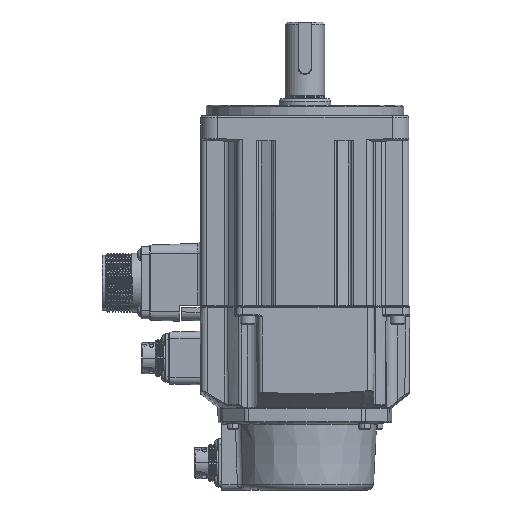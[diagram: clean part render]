
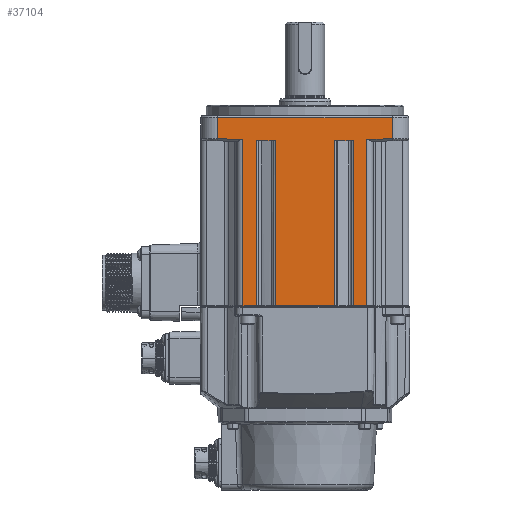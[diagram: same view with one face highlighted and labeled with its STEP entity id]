
A CAD part, left-side view. The second image highlights one B-rep face of the part: STEP entity #37104.
In plain terms, the highlighted planar face has unit normal (-1, 0, 0).
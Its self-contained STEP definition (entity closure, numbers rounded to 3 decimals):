
#9712=DIRECTION('',(0.,-1.,0.));
#9713=VECTOR('',#9712,28.4);
#9714=CARTESIAN_POINT('',(-50.,14.2,-30.1));
#9715=LINE('',#9714,#9713);
#9745=DIRECTION('',(0.,-1.,0.));
#9746=VECTOR('',#9745,6.452);
#9747=CARTESIAN_POINT('',(-50.,-23.3,-30.1));
#9748=LINE('',#9747,#9746);
#10033=DIRECTION('',(0.,-1.,0.));
#10034=VECTOR('',#10033,6.452);
#10035=CARTESIAN_POINT('',(-50.,29.752,-30.1));
#10036=LINE('',#10035,#10034);
#10341=DIRECTION('',(0.,0.,1.));
#10342=VECTOR('',#10341,79.4);
#10343=CARTESIAN_POINT('',(-50.,23.3,-30.1));
#10344=LINE('',#10343,#10342);
#10392=DIRECTION('',(0.,1.,0.017));
#10393=VECTOR('',#10392,12.25);
#10394=CARTESIAN_POINT('',(-50.,29.752,49.947));
#10395=LINE('',#10394,#10393);
#10396=DIRECTION('',(0.,0.,1.));
#10397=VECTOR('',#10396,10.139);
#10398=CARTESIAN_POINT('',(-50.,42.,
50.161));
#10399=LINE('',#10398,#10397);
#10400=DIRECTION('',(0.,1.,-0.017));
#10401=VECTOR('',#10400,12.25);
#10402=CARTESIAN_POINT('',(-50.,-42.,
50.161));
#10403=LINE('',#10402,#10401);
#10404=DIRECTION('',(0.,1.,0.));
#10405=VECTOR('',#10404,9.1);
#10406=CARTESIAN_POINT('',(-50.,-23.3,49.3));
#10407=LINE('',#10406,#10405);
#10408=DIRECTION('',(0.,1.,0.));
#10409=VECTOR('',#10408,9.1);
#10410=CARTESIAN_POINT('',(-50.,14.2,49.3));
#10411=LINE('',#10410,#10409);
#11129=DIRECTION('',(0.,0.,1.));
#11130=VECTOR('',#11129,10.139);
#11131=CARTESIAN_POINT('',(-50.,-42.,
50.161));
#11132=LINE('',#11131,#11130);
#11277=DIRECTION('',(0.,1.,0.));
#11278=VECTOR('',#11277,84.);
#11279=CARTESIAN_POINT('',(-50.,-42.,
60.3));
#11280=LINE('',#11279,#11278);
#13400=DIRECTION('',(0.,0.,1.));
#13401=VECTOR('',#13400,80.047);
#13402=CARTESIAN_POINT('',(-50.,-29.752,-30.1));
#13403=LINE('',#13402,#13401);
#13464=DIRECTION('',(0.,0.,-1.));
#13465=VECTOR('',#13464,80.047);
#13466=CARTESIAN_POINT('',(-50.,29.752,49.947));
#13467=LINE('',#13466,#13465);
#17057=DIRECTION('',(0.,0.,-1.));
#17058=VECTOR('',#17057,79.4);
#17059=CARTESIAN_POINT('',(-50.,-23.3,49.3));
#17060=LINE('',#17059,#17058);
#17120=DIRECTION('',(0.,0.,1.));
#17121=VECTOR('',#17120,79.4);
#17122=CARTESIAN_POINT('',(-50.,-14.2,-30.1));
#17123=LINE('',#17122,#17121);
#17140=DIRECTION('',(0.,0.,-1.));
#17141=VECTOR('',#17140,79.4);
#17142=CARTESIAN_POINT('',(-50.,14.2,49.3));
#17143=LINE('',#17142,#17141);
#18136=CARTESIAN_POINT('',(-50.,42.,
60.3));
#18137=VERTEX_POINT('',#18136);
#18140=CARTESIAN_POINT('',(-50.,-42.,
60.3));
#18141=VERTEX_POINT('',#18140);
#18250=CARTESIAN_POINT('',(-50.,23.3,
-30.1));
#18252=VERTEX_POINT('',#18250);
#18264=CARTESIAN_POINT('',(-50.,14.2,
-30.1));
#18265=VERTEX_POINT('',#18264);
#18266=CARTESIAN_POINT('',(-50.,-14.2,-30.1));
#18267=VERTEX_POINT('',#18266);
#18280=CARTESIAN_POINT('',(-50.,-23.3,
-30.1));
#18281=VERTEX_POINT('',#18280);
#18282=CARTESIAN_POINT('',(-50.,-29.752,-30.1));
#18283=VERTEX_POINT('',#18282);
#18380=CARTESIAN_POINT('',(-50.,29.752,
-30.1));
#18381=VERTEX_POINT('',#18380);
#18576=CARTESIAN_POINT('',(-50.,23.3,49.3));
#18577=VERTEX_POINT('',#18576);
#18580=CARTESIAN_POINT('',(-50.,14.2,49.3));
#18581=VERTEX_POINT('',#18580);
#18587=CARTESIAN_POINT('',(-50.,29.752,49.947));
#18588=CARTESIAN_POINT('',(-50.,42.,
50.161));
#18589=VERTEX_POINT('',#18587);
#18590=VERTEX_POINT('',#18588);
#18591=CARTESIAN_POINT('',(-50.,-42.,
50.161));
#18592=VERTEX_POINT('',#18591);
#18593=CARTESIAN_POINT('',(-50.,-29.752,49.947));
#18594=VERTEX_POINT('',#18593);
#18595=CARTESIAN_POINT('',(-50.,-23.3,49.3));
#18596=VERTEX_POINT('',#18595);
#18597=CARTESIAN_POINT('',(-50.,-14.2,49.3));
#18598=VERTEX_POINT('',#18597);
#37070=CARTESIAN_POINT('',(-50.,42.,61.3));
#37071=DIRECTION('',(-1.,0.,0.));
#37072=DIRECTION('',(0.,-1.,0.));
#37073=AXIS2_PLACEMENT_3D('',#37070,#37071,#37072);
#37074=PLANE('',#37073);
#37076=ORIENTED_EDGE('',*,*,#37075,.T.);
#37078=ORIENTED_EDGE('',*,*,#37077,.T.);
#37080=ORIENTED_EDGE('',*,*,#37079,.F.);
#37082=ORIENTED_EDGE('',*,*,#37081,.F.);
#37084=ORIENTED_EDGE('',*,*,#37083,.T.);
#37086=ORIENTED_EDGE('',*,*,#37085,.F.);
#37087=ORIENTED_EDGE('',*,*,#36693,.F.);
#37089=ORIENTED_EDGE('',*,*,#37088,.F.);
#37091=ORIENTED_EDGE('',*,*,#37090,.T.);
#37093=ORIENTED_EDGE('',*,*,#37092,.F.);
#37094=ORIENTED_EDGE('',*,*,#36677,.F.);
#37096=ORIENTED_EDGE('',*,*,#37095,.F.);
#37097=ORIENTED_EDGE('',*,*,#37053,.T.);
#37098=ORIENTED_EDGE('',*,*,#37027,.F.);
#37099=ORIENTED_EDGE('',*,*,#36821,.F.);
#37101=ORIENTED_EDGE('',*,*,#37100,.F.);
#37102=EDGE_LOOP('',(#37076,#37078,#37080,#37082,#37084,#37086,#37087,#37089,
#37091,#37093,#37094,#37096,#37097,#37098,#37099,#37101));
#37103=FACE_OUTER_BOUND('',#37102,.F.);
#36677=EDGE_CURVE('',#18265,#18267,#9715,.T.);
#36693=EDGE_CURVE('',#18281,#18283,#9748,.T.);
#36821=EDGE_CURVE('',#18381,#18252,#10036,.T.);
#37027=EDGE_CURVE('',#18252,#18577,#10344,.T.);
#37053=EDGE_CURVE('',#18581,#18577,#10411,.T.);
#37075=EDGE_CURVE('',#18589,#18590,#10395,.T.);
#37077=EDGE_CURVE('',#18590,#18137,#10399,.T.);
#37079=EDGE_CURVE('',#18141,#18137,#11280,.T.);
#37081=EDGE_CURVE('',#18592,#18141,#11132,.T.);
#37083=EDGE_CURVE('',#18592,#18594,#10403,.T.);
#37085=EDGE_CURVE('',#18283,#18594,#13403,.T.);
#37088=EDGE_CURVE('',#18596,#18281,#17060,.T.);
#37090=EDGE_CURVE('',#18596,#18598,#10407,.T.);
#37092=EDGE_CURVE('',#18267,#18598,#17123,.T.);
#37095=EDGE_CURVE('',#18581,#18265,#17143,.T.);
#37100=EDGE_CURVE('',#18589,#18381,#13467,.T.);
#37104=ADVANCED_FACE('',(#37103),#37074,.T.);
